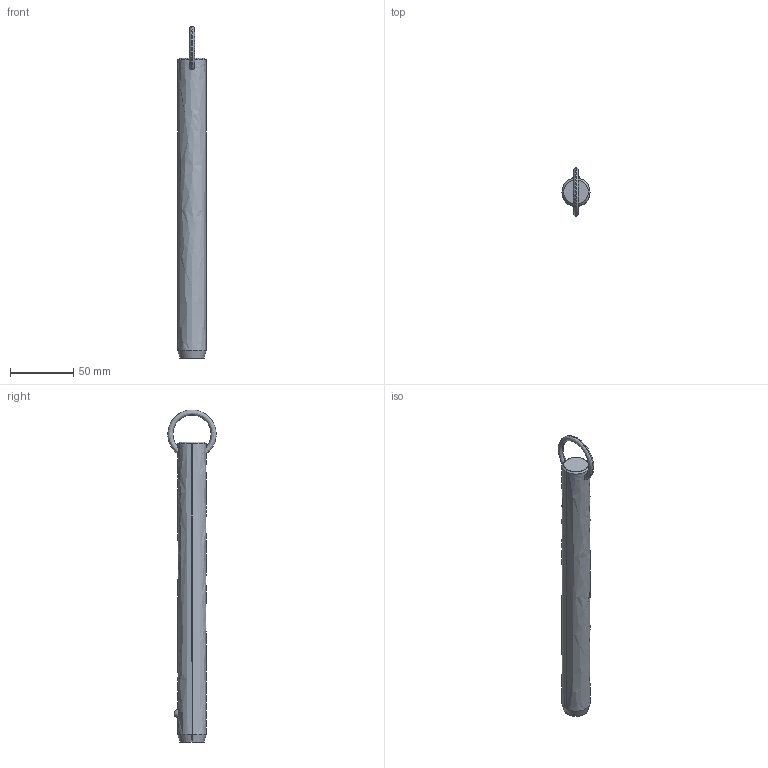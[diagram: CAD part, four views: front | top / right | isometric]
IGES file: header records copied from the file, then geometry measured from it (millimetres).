
Start section: SolidWorks IGES file using analytic representation for surfaces
Global section: file name: C:\Users\liam_\OneDrive\Documents\WORK\Work for WixRoyd\Job Files\J-00019 - Matt Davis CAD Checking\04. CAD Drawings\automotion20190605\P1250.2_v2\P1250.2_v2_20190729_IGES\P1250.087-780.igs; native system: SolidWorks 2017; preprocessor: SolidWorks 2017; author: liam_; date: 190730.173201; units: millimetre
Bounding box: 22.2 x 38.09 x 261.59 mm (x, y, z)
Surface area: 18117.1 mm2 (no closed solid volume)
Topology: 0 solids, 0 shells, 12 faces, 302 edges, 300 vertices
Faces by surface type: revolution 8, bspline 4
